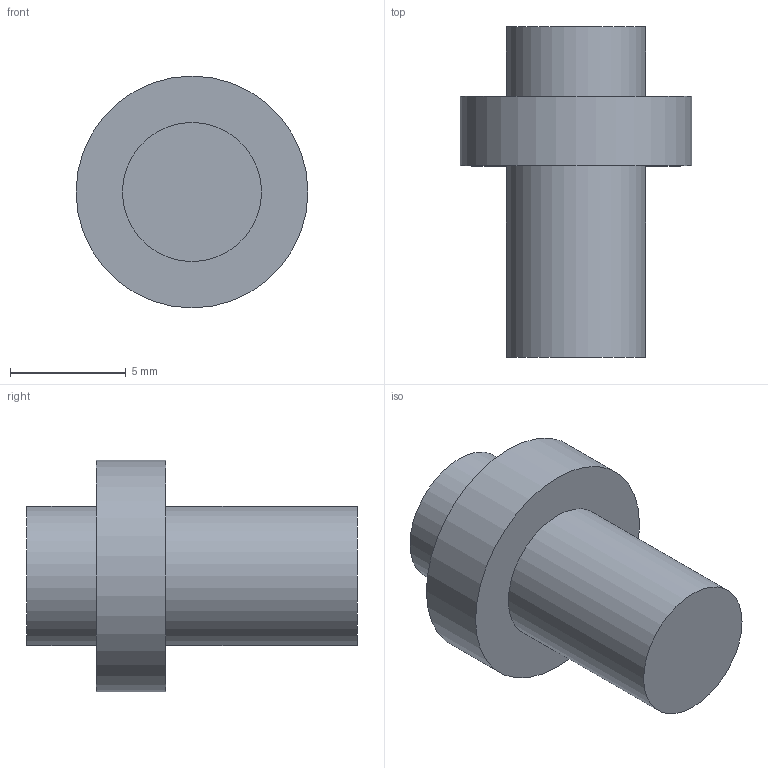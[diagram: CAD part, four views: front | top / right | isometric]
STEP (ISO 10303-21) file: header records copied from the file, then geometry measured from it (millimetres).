
FILE_DESCRIPTION(('Open CASCADE Model'),'2;1');
FILE_NAME('Open CASCADE Shape Model','2026-10-16T05:11:25',('Author'),( 'Open CASCADE'),'Open CASCADE STEP processor 7.9','Open CASCADE 7.9' ,'Unknown');
FILE_SCHEMA(('AUTOMOTIVE_DESIGN { 1 0 10303 214 1 1 1 1 }'));
Length unit declared in the file: millimetre
Products named in the file (1): Open CASCADE STEP translator 7.9 7
Bounding box: 10 x 14.25 x 10 mm (x, y, z)
Volume: 553.7 mm3; surface area: 463.4 mm2
Topology: 1 solids, 1 shells, 7 faces, 9 edges, 6 vertices
Faces by surface type: plane 4, cylinder 3
Full cylindrical faces by diameter (mm): 6 x2, 10 x1
Entity records: 282 total; most frequent: CARTESIAN_POINT 53, DIRECTION 47, ORIENTED_EDGE 18, PCURVE 18, DEFINITIONAL_REPRESENTATION 18, LINE 15, VECTOR 15, AXIS2_PLACEMENT_3D 14
